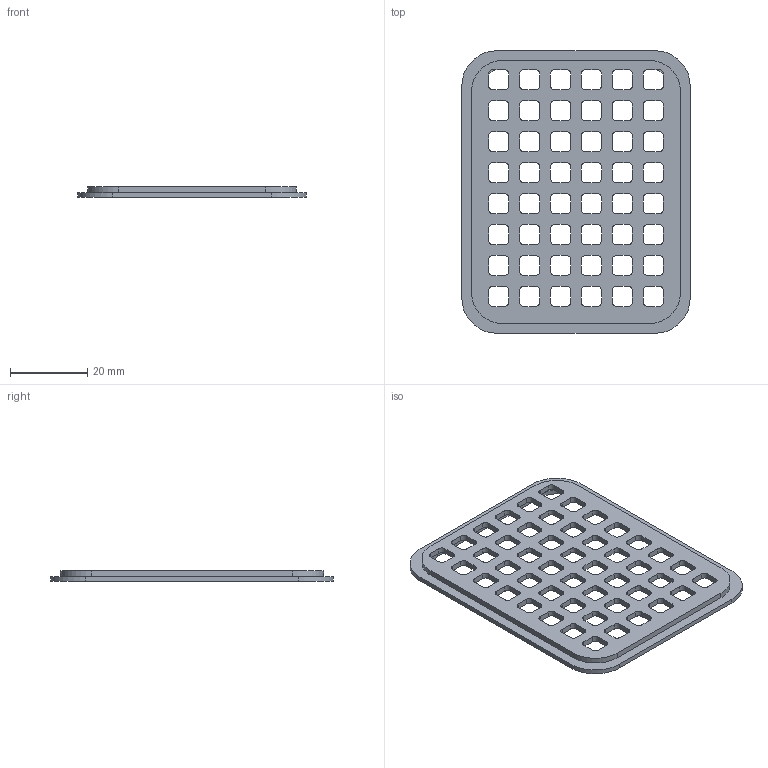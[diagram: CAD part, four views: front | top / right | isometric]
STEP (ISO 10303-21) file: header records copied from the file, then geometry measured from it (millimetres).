
FILE_DESCRIPTION(('Open CASCADE Model'),'2;1');
FILE_NAME('Open CASCADE Shape Model','2026-09-06T11:23:48',('Author'),( 'Open CASCADE'),'Open CASCADE STEP processor 7.7','Open CASCADE 7.7' ,'Unknown');
FILE_SCHEMA(('AUTOMOTIVE_DESIGN { 1 0 10303 214 1 1 1 1 }'));
Length unit declared in the file: millimetre
Products named in the file (1): Open CASCADE STEP translator 7.7 23
Bounding box: 59 x 73 x 2.7 mm (x, y, z)
Volume: 4842 mm3; surface area: 8246.7 mm2
Topology: 1 solids, 1 shells, 414 faces, 1232 edges, 820 vertices
Faces by surface type: plane 210, cylinder 204
Entity records: 30240 total; most frequent: CARTESIAN_POINT 4979, DIRECTION 4932, LINE 2868, VECTOR 2868, ORIENTED_EDGE 2464, PCURVE 2464, DEFINITIONAL_REPRESENTATION 2464, EDGE_CURVE 1232
